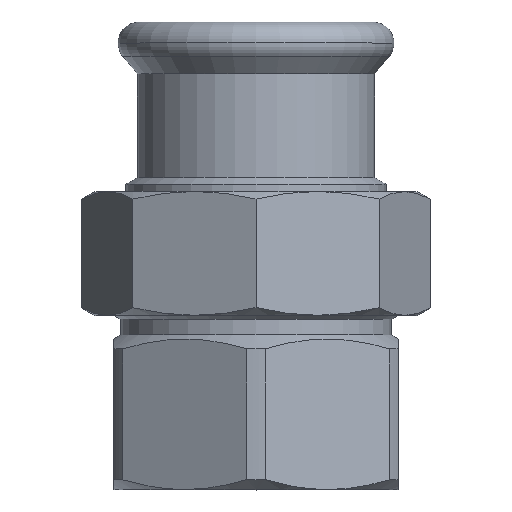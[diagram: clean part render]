
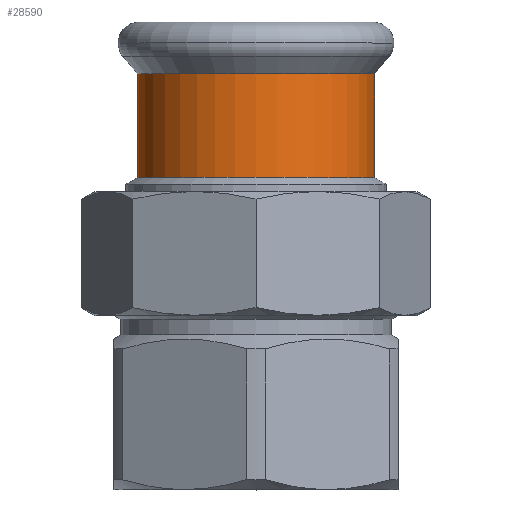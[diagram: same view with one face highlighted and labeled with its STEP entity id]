
A CAD part, top view. The second image highlights one B-rep face of the part: STEP entity #28590.
In plain terms, the highlighted cylindrical face has radius 19.15 mm (diameter 38.3 mm), a partial arc.
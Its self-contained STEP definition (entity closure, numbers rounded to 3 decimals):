
#7070=CARTESIAN_POINT('',(190.738,40.015,
0.));
#7080=VERTEX_POINT('',#7070);
#7260=CARTESIAN_POINT('',(152.438,40.015,0.));
#7270=VERTEX_POINT('',#7260);
#7300=CARTESIAN_POINT('',(171.588,40.015,0.));
#7310=DIRECTION('',(0.,-1.,0.));
#7320=DIRECTION('',(-1.,0.,0.));
#7330=AXIS2_PLACEMENT_3D('',#7300,#7310,#7320);
#7340=CIRCLE('',#7330,19.15);
#7350=EDGE_CURVE('',#7080,#7270,#7340,.T.);
#28280=CARTESIAN_POINT('',(171.588,47.381,0.));
#28290=DIRECTION('',(0.,-1.,0.));
#28300=DIRECTION('',(-1.,0.,0.));
#28310=AXIS2_PLACEMENT_3D('',#28280,#28290,#28300);
#28320=CYLINDRICAL_SURFACE('',#28310,19.15);
#28330=CARTESIAN_POINT('',(152.438,47.381,0.));
#28340=DIRECTION('',(0.,-1.,0.));
#28350=VECTOR('',#28340,1.);
#28360=LINE('',#28330,#28350);
#28370=CARTESIAN_POINT('',(152.438,56.788,0.));
#28380=VERTEX_POINT('',#28370);
#28390=EDGE_CURVE('',#28380,#7270,#28360,.T.);
#28400=ORIENTED_EDGE('',*,*,#28390,.T.);
#28410=CARTESIAN_POINT('',(171.588,56.788,0.));
#28420=DIRECTION('',(0.,1.,0.));
#28430=DIRECTION('',(-1.,0.,0.));
#28440=AXIS2_PLACEMENT_3D('',#28410,#28420,#28430);
#28450=CIRCLE('',#28440,19.15);
#28460=CARTESIAN_POINT('',(190.738,56.788,
0.));
#28470=VERTEX_POINT('',#28460);
#28480=EDGE_CURVE('',#28380,#28470,#28450,.T.);
#28490=ORIENTED_EDGE('',*,*,#28480,.F.);
#28500=CARTESIAN_POINT('',(190.738,47.381,
0.));
#28510=DIRECTION('',(0.,-1.,0.));
#28520=VECTOR('',#28510,1.);
#28530=LINE('',#28500,#28520);
#28540=EDGE_CURVE('',#28470,#7080,#28530,.T.);
#28550=ORIENTED_EDGE('',*,*,#28540,.F.);
#28560=ORIENTED_EDGE('',*,*,#7350,.F.);
#28570=EDGE_LOOP('',(#28560,#28550,#28490,#28400));
#28580=FACE_OUTER_BOUND('',#28570,.T.);
#28590=ADVANCED_FACE('',(#28580),#28320,.T.);
